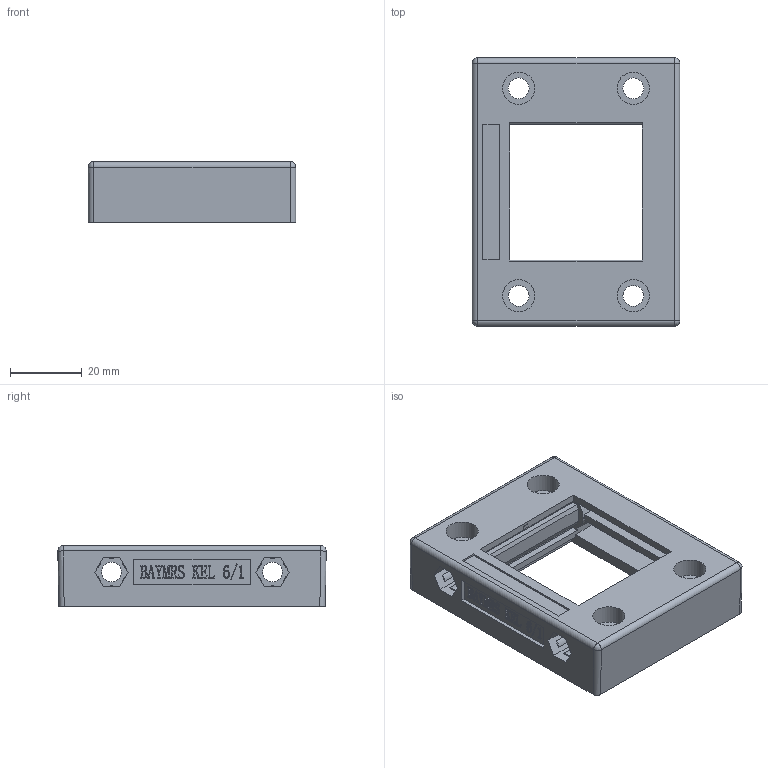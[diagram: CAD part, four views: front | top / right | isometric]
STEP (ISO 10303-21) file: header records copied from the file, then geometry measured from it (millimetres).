
FILE_DESCRIPTION(/* description */ (''),/* implementation_level */ '2;1');
FILE_NAME(/* name */ 'KEL 6-1.stp',/* time_stamp */ '2024-05-08T10:26:06+08:00',/* author */ (''),/* organization */ (''),/* preprocessor_version */ 'ST-DEVELOPER v16.7',/* originating_system */ 'SIEMENS PLM Software NX 12.0',/* authorisation */ '');
FILE_SCHEMA (('AP203_CONFIGURATION_CONTROLLED_3D_DESIGN_OF_MECHANICAL_PARTS_AND_ASSEMBLIES_MIM_LF { 1 0 10303 403 2 1 2}'));
Length unit declared in the file: millimetre
Products named in the file (1): Admi3004356956cj
Bounding box: 58 x 75 x 17 mm (x, y, z)
Volume: 33578.7 mm3; surface area: 22982 mm2
Topology: 1 solids, 3 shells, 610 faces, 1743 edges, 1168 vertices
Faces by surface type: plane 314, extrusion 124, cylinder 100, cone 28, bspline 24, sphere 12, torus 8
Full cylindrical faces by diameter (mm): 5.5 x2, 5.8 x4, 9 x6
Entity records: 22435 total; most frequent: CARTESIAN_POINT 7044, ORIENTED_EDGE 3444, DIRECTION 2657, EDGE_CURVE 1722, VERTEX_POINT 1165, VECTOR 1129, LINE 1005, AXIS2_PLACEMENT_3D 764
